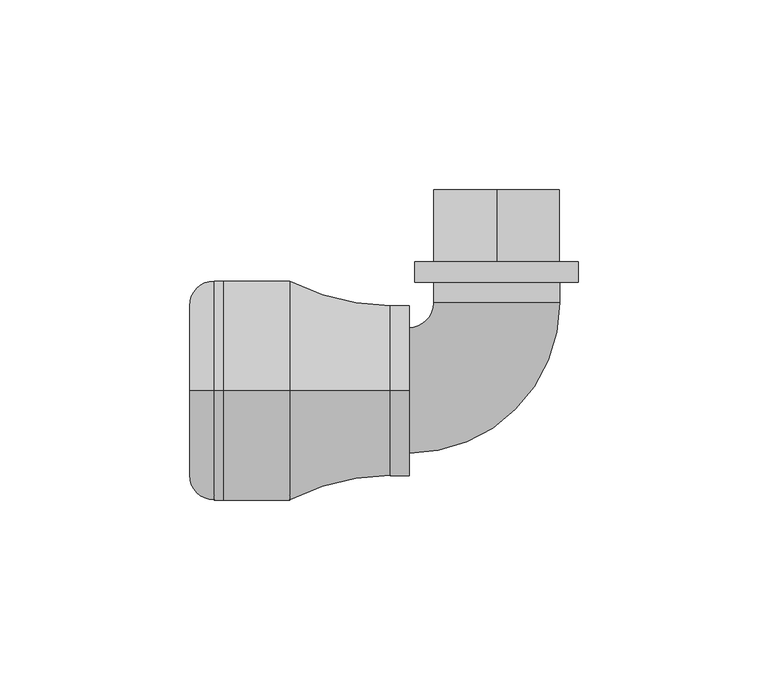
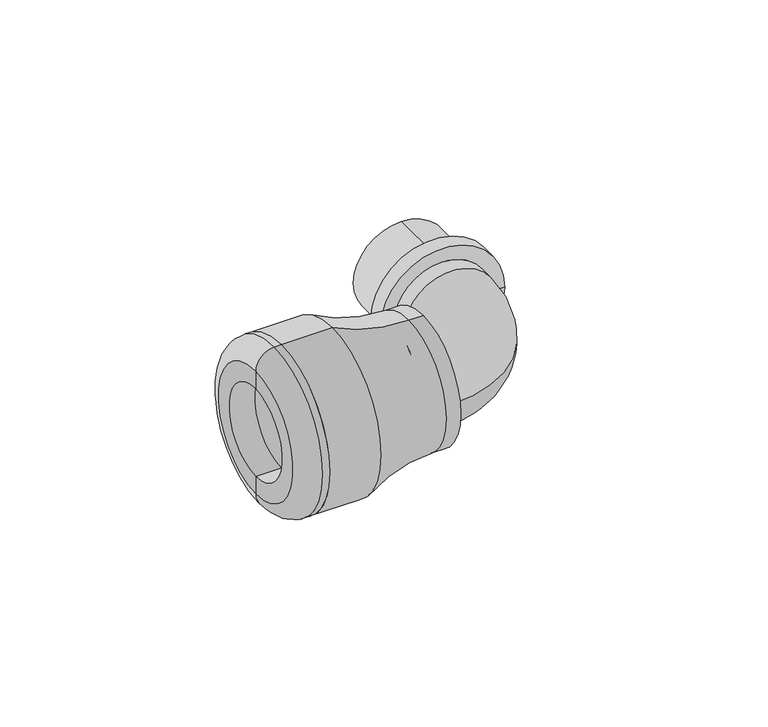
"""IFC4 building model written with IfcOpenShell, lengths in millimetres: pipe fitting geometry, Plumbing_Pipe-Fittings_Plasson_Elbow-90-with-Threaded-Male-Offtake_1085 : Plumbing_Pipe-Fittings_Plasson_Elbow-90-with-Threaded-Male-Offtake_1085."""

from ifc_helpers import new_model, si_unit, point, frame, origin, place, context, project, spatial, polyline, circle_curve, ellipse_curve, trimmed, source, transform, mapped, element, save
from ifc_brep_helpers import plane_surface, cylinder_surface, revolved_surface, advanced_brep


def pipe_fitting_c59c5df5(model_context):
    return source(origin(), model_context, "Body", "AdvancedBrep", [
        advanced_brep(
        [(0.0, 53.0, -10.8), (0.0, 53.0, 10.8), (0.0, 34.0, 10.8), (0.0, 34.0, -10.8), (0.0, 53.0, -16.6), (0.0, 53.0, 16.6), (0.0, 34.0, -16.6), (0.0, 34.0, 16.6)],
        [
            (0, 1, circle_curve(frame((0.0, 53.0, 0.0), z_axis=(0.0, 1.0, 0.0), x_axis=(0.0, 0.0, 1.0)), 10.8)),
            (1, 2),
            (2, 3, circle_curve(frame((0.0, 34.0, 0.0), z_axis=(0.0, -1.0, 0.0), x_axis=(0.0, 0.0, 1.0)), 10.8)),
            (3, 0),
            (1, 0, circle_curve(frame((0.0, 53.0, 0.0), z_axis=(0.0, 1.0, 0.0), x_axis=(0.0, 0.0, 1.0)), 10.8)),
            (3, 2, circle_curve(frame((0.0, 34.0, 0.0), z_axis=(0.0, -1.0, 0.0), x_axis=(0.0, 0.0, 1.0)), 10.8)),
            (4, 5, circle_curve(frame((0.0, 53.0, 0.0), z_axis=(0.0, 1.0, 0.0), x_axis=(0.0, 0.0, 1.0)), 16.6)),
            (5, 1),
            (0, 4),
            (5, 4, circle_curve(frame((0.0, 53.0, 0.0), z_axis=(0.0, 1.0, 0.0), x_axis=(0.0, 0.0, 1.0)), 16.6)),
            (6, 7, circle_curve(frame((0.0, 34.0, 0.0), z_axis=(0.0, 1.0, 0.0), x_axis=(0.0, 0.0, 1.0)), 16.6)),
            (7, 5),
            (4, 6),
            (7, 6, circle_curve(frame((0.0, 34.0, 0.0), z_axis=(0.0, 1.0, 0.0), x_axis=(0.0, 0.0, 1.0)), 16.6)),
            (2, 7),
            (6, 3),
        ],
        [
            revolved_surface(polyline([(0.0, 34.0, 10.8), (0.0, 53.0, 10.8)]), (0.0, 43.3333333, 0.0), (0.0, -1.0, 0.0)),
            plane_surface(frame((0.0, 53.0, 0.0), z_axis=(0.0, 1.0, 0.0), x_axis=(0.0, 0.0, 1.0))),
            cylinder_surface(frame((0.0, 43.3333333, 0.0), z_axis=(0.0, -1.0, 0.0), x_axis=(0.0, 0.0, 1.0)), 16.6),
            plane_surface(frame((0.0, 34.0, 0.0), z_axis=(0.0, -1.0, 0.0), x_axis=(0.0, 0.0, 1.0))),
        ],
        [
            (0, [[1, 2, 3, 4]]),
            (0, [[5, -4, 6, -2]]),
            (1, [[7, 8, -1, 9]]),
            (1, [[10, -9, -5, -8]]),
            (2, [[11, 12, -7, 13]]),
            (2, [[14, -13, -10, -12]]),
            (3, [[-3, 15, -11, 16]]),
            (3, [[-6, -16, -14, -15]]),
        ],
    ),
        advanced_brep(
        [(-23.1, -16.6, 0.0), (-23.1, 16.6, 0.0), (16.6, 23.1, 0.0), (-16.6, 23.1, 0.0)],
        [
            (0, 1, circle_curve(frame((-23.1, 0.0, 0.0), z_axis=(-1.0, 0.0, 0.0), x_axis=(0.0, 1.0, 0.0)), 16.6)),
            (1, 0, circle_curve(frame((-23.1, 0.0, 0.0), z_axis=(-1.0, 0.0, 0.0), x_axis=(0.0, 1.0, 0.0)), 16.6)),
            (2, 3, circle_curve(frame((0.0, 23.1, 0.0), z_axis=(0.0, 1.0, 0.0), x_axis=(-1.0, 0.0, 0.0)), 16.6)),
            (3, 2, circle_curve(frame((0.0, 23.1, 0.0), z_axis=(0.0, 1.0, 0.0), x_axis=(-1.0, 0.0, 0.0)), 16.6)),
            (3, 1, circle_curve(frame((-23.1, 23.1, 0.0), z_axis=(0.0, 0.0, -1.0), x_axis=(0.0, -1.0, 0.0)), 6.5)),
            (0, 2, circle_curve(frame((-23.1, 23.1, 0.0), z_axis=(0.0, 0.0, 1.0), x_axis=(0.0, -1.0, 0.0)), 39.7)),
        ],
        [
            plane_surface(frame((-23.1, 0.0, 0.0), z_axis=(-1.0, 0.0, 0.0), x_axis=(0.0, 0.0, 1.0))),
            plane_surface(frame((0.0, 23.1, 0.0), z_axis=(0.0, 1.0, 0.0), x_axis=(0.0, 0.0, 1.0))),
            revolved_surface(trimmed(ellipse_curve(frame((-23.1, 0.0, 0.0), z_axis=(-1.0, 0.0, 0.0), x_axis=(0.0, 1.0, 0.0)), 16.6, 16.6), [point((-23.1, -16.6, 0.0))], [point((-23.1, 16.6, 0.0))], True, "CARTESIAN"), (-23.1, 23.1, 0.0), (0.0, 0.0, 1.0)),
            revolved_surface(trimmed(ellipse_curve(frame((-23.1, 0.0, 0.0), z_axis=(-1.0, 0.0, 0.0), x_axis=(0.0, 1.0, 0.0)), 16.6, 16.6), [point((-23.1, 16.6, 0.0))], [point((-23.1, -16.6, 0.0))], True, "CARTESIAN"), (-23.1, 23.1, 0.0), (0.0, 0.0, 1.0)),
        ],
        [
            (0, [[1, 2]]),
            (1, [[3, 4]]),
            (2, [[5, -1, 6, -4]]),
            (3, [[-6, -2, -5, -3]]),
        ],
    ),
        advanced_brep(
        [(21.6, 28.55, 0.0), (-21.6, 28.55, 0.0), (-21.6, 34.0, 0.0), (21.6, 34.0, 0.0), (0.0, 34.0, 0.0), (0.0, 23.1, 0.0), (-16.6, 23.1, 0.0), (16.6, 23.1, 0.0), (-16.6, 28.55, 0.0), (16.6, 28.55, 0.0)],
        [
            (0, 1, circle_curve(frame((0.0, 28.55, 0.0), z_axis=(0.0, 1.0, 0.0), x_axis=(-1.0, 0.0, 0.0)), 21.6)),
            (1, 2),
            (2, 3, circle_curve(frame((0.0, 34.0, 0.0), z_axis=(0.0, -1.0, 0.0), x_axis=(-1.0, 0.0, 0.0)), 21.6)),
            (3, 0),
            (1, 0, circle_curve(frame((0.0, 28.55, 0.0), z_axis=(0.0, 1.0, 0.0), x_axis=(-1.0, 0.0, 0.0)), 21.6)),
            (3, 2, circle_curve(frame((0.0, 34.0, 0.0), z_axis=(0.0, -1.0, 0.0), x_axis=(-1.0, 0.0, 0.0)), 21.6)),
            (2, 4),
            (4, 3),
            (5, 6),
            (6, 7, circle_curve(frame((0.0, 23.1, 0.0), z_axis=(0.0, -1.0, 0.0), x_axis=(-1.0, 0.0, 0.0)), 16.6)),
            (7, 5),
            (7, 6, circle_curve(frame((0.0, 23.1, 0.0), z_axis=(0.0, -1.0, 0.0), x_axis=(-1.0, 0.0, 0.0)), 16.6)),
            (6, 8),
            (8, 9, circle_curve(frame((0.0, 28.55, 0.0), z_axis=(0.0, -1.0, 0.0), x_axis=(-1.0, 0.0, 0.0)), 16.6)),
            (9, 7),
            (9, 8, circle_curve(frame((0.0, 28.55, 0.0), z_axis=(0.0, -1.0, 0.0), x_axis=(-1.0, 0.0, 0.0)), 16.6)),
            (8, 1),
            (0, 9),
        ],
        [
            cylinder_surface(frame((0.0, 32.25, 0.0), z_axis=(0.0, -1.0, 0.0), x_axis=(-1.0, 0.0, 0.0)), 21.6),
            plane_surface(frame((0.0, 34.0, 0.0), z_axis=(0.0, 1.0, 0.0), x_axis=(-1.0, 0.0, 0.0))),
            plane_surface(frame((0.0, 23.1, 0.0), z_axis=(0.0, -1.0, 0.0), x_axis=(-1.0, 0.0, 0.0))),
            cylinder_surface(frame((0.0, 32.25, 0.0), z_axis=(0.0, -1.0, 0.0), x_axis=(-1.0, 0.0, 0.0)), 16.6),
            plane_surface(frame((0.0, 28.55, 0.0), z_axis=(0.0, -1.0, 0.0), x_axis=(-1.0, 0.0, 0.0))),
        ],
        [
            (0, [[1, 2, 3, 4]]),
            (0, [[5, -4, 6, -2]]),
            (1, [[-3, 7, 8]]),
            (1, [[-6, -8, -7]]),
            (2, [[9, 10, 11]]),
            (2, [[-11, 12, -9]]),
            (3, [[-10, 13, 14, 15]]),
            (3, [[-12, -15, 16, -13]]),
            (4, [[-14, 17, -1, 18]]),
            (4, [[-16, -18, -5, -17]]),
        ],
    ),
        advanced_brep(
        [(-72.1666667, 0.0, -29.0), (-72.1666667, 0.0, 29.0), (-72.1666667, 0.0, 16.0), (-72.1666667, 0.0, -16.0), (-74.5, 0.0, -29.0), (-74.5, 0.0, 29.0), (-81.0, 0.0, -22.5), (-81.0, 0.0, 22.5), (-81.0, 0.0, -16.0), (-81.0, 0.0, 16.0)],
        [
            (0, 1, circle_curve(frame((-72.1666667, 0.0, 0.0), z_axis=(1.0, 0.0, 0.0), x_axis=(0.0, 0.0, 1.0)), 29.0)),
            (1, 2),
            (2, 3, circle_curve(frame((-72.1666667, 0.0, 0.0), z_axis=(-1.0, 0.0, 0.0), x_axis=(0.0, 0.0, 1.0)), 16.0)),
            (3, 0),
            (1, 0, circle_curve(frame((-72.1666667, 0.0, 0.0), z_axis=(1.0, 0.0, 0.0), x_axis=(0.0, 0.0, 1.0)), 29.0)),
            (3, 2, circle_curve(frame((-72.1666667, 0.0, 0.0), z_axis=(-1.0, 0.0, 0.0), x_axis=(0.0, 0.0, 1.0)), 16.0)),
            (4, 5, circle_curve(frame((-74.5, 0.0, 0.0), z_axis=(1.0, 0.0, 0.0), x_axis=(0.0, 0.0, 1.0)), 29.0)),
            (5, 1),
            (0, 4),
            (5, 4, circle_curve(frame((-74.5, 0.0, 0.0), z_axis=(1.0, 0.0, 0.0), x_axis=(0.0, 0.0, 1.0)), 29.0)),
            (6, 7, circle_curve(frame((-81.0, 0.0, 0.0), z_axis=(1.0, 0.0, 0.0), x_axis=(0.0, 0.0, 1.0)), 22.5)),
            (7, 5, circle_curve(frame((-74.5, 0.0, 22.5), z_axis=(0.0, 1.0, 0.0), x_axis=(1.0, 0.0, 0.0)), 6.5)),
            (4, 6, circle_curve(frame((-74.5, 0.0, -22.5), z_axis=(0.0, 1.0, 0.0), x_axis=(1.0, 0.0, 0.0)), 6.5)),
            (7, 6, circle_curve(frame((-81.0, 0.0, 0.0), z_axis=(1.0, 0.0, 0.0), x_axis=(0.0, 0.0, 1.0)), 22.5)),
            (8, 9, circle_curve(frame((-81.0, 0.0, 0.0), z_axis=(1.0, 0.0, 0.0), x_axis=(0.0, 0.0, 1.0)), 16.0)),
            (9, 7),
            (6, 8),
            (9, 8, circle_curve(frame((-81.0, 0.0, 0.0), z_axis=(1.0, 0.0, 0.0), x_axis=(0.0, 0.0, 1.0)), 16.0)),
            (2, 9),
            (8, 3),
        ],
        [
            plane_surface(frame((-72.1666667, 0.0, 0.0), z_axis=(1.0, 0.0, 0.0), x_axis=(0.0, 0.0, 1.0))),
            cylinder_surface(frame((-86.0, 0.0, 0.0), z_axis=(-1.0, 0.0, 0.0), x_axis=(0.0, 0.0, 1.0)), 29.0),
            revolved_surface(trimmed(ellipse_curve(frame((-74.5, 0.0, 22.5), z_axis=(0.0, -1.0, 0.0), x_axis=(1.0, 0.0, 0.0)), 6.5, 6.5), [point((-74.5, 0.0, 29.0))], [point((-81.0, 0.0, 22.5))], True, "CARTESIAN"), (-86.0, 0.0, 0.0), (-1.0, 0.0, 0.0)),
            plane_surface(frame((-81.0, 0.0, 0.0), z_axis=(-1.0, 0.0, 0.0), x_axis=(0.0, 0.0, 1.0))),
            revolved_surface(polyline([(-81.0, 0.0, 16.0), (-72.1666667, 0.0, 16.0)]), (-86.0, 0.0, 0.0), (-1.0, 0.0, 0.0)),
        ],
        [
            (0, [[1, 2, 3, 4]]),
            (0, [[5, -4, 6, -2]]),
            (1, [[7, 8, -1, 9]]),
            (1, [[10, -9, -5, -8]]),
            (2, [[11, 12, -7, 13]]),
            (2, [[14, -13, -10, -12]]),
            (3, [[15, 16, -11, 17]]),
            (3, [[18, -17, -14, -16]]),
            (4, [[-3, 19, -15, 20]]),
            (4, [[-6, -20, -18, -19]]),
        ],
    ),
        advanced_brep(
        [(-72.1666667, 0.0, -16.0), (-72.1666667, 0.0, 16.0), (-72.1666667, 0.0, 29.0), (-72.1666667, 0.0, -29.0), (-28.0, 0.0, -16.0), (-28.0, 0.0, 16.0), (-28.0, 0.0, 0.0), (-54.5, 0.0, 29.0), (-54.5, 0.0, -29.0), (-23.1, 0.0, -22.5), (-23.1, 0.0, 22.5), (-23.1, 0.0, 0.0), (-28.0, 0.0, -22.5), (-28.0, 0.0, 22.5)],
        [
            (0, 1, circle_curve(frame((-72.1666667, 0.0, 0.0), z_axis=(1.0, 0.0, 0.0), x_axis=(0.0, 0.0, 1.0)), 16.0)),
            (1, 2),
            (2, 3, circle_curve(frame((-72.1666667, 0.0, 0.0), z_axis=(-1.0, 0.0, 0.0), x_axis=(0.0, 0.0, 1.0)), 29.0)),
            (3, 0),
            (1, 0, circle_curve(frame((-72.1666667, 0.0, 0.0), z_axis=(1.0, 0.0, 0.0), x_axis=(0.0, 0.0, 1.0)), 16.0)),
            (3, 2, circle_curve(frame((-72.1666667, 0.0, 0.0), z_axis=(-1.0, 0.0, 0.0), x_axis=(0.0, 0.0, 1.0)), 29.0)),
            (4, 5, circle_curve(frame((-28.0, 0.0, 0.0), z_axis=(1.0, 0.0, 0.0), x_axis=(0.0, 0.0, 1.0)), 16.0)),
            (5, 1),
            (0, 4),
            (5, 4, circle_curve(frame((-28.0, 0.0, 0.0), z_axis=(1.0, 0.0, 0.0), x_axis=(0.0, 0.0, 1.0)), 16.0)),
            (6, 5),
            (4, 6),
            (2, 7),
            (7, 8, circle_curve(frame((-54.5, 0.0, 0.0), z_axis=(-1.0, 0.0, 0.0), x_axis=(0.0, 0.0, 1.0)), 29.0)),
            (8, 3),
            (8, 7, circle_curve(frame((-54.5, 0.0, 0.0), z_axis=(-1.0, 0.0, 0.0), x_axis=(0.0, 0.0, 1.0)), 29.0)),
            (9, 10, circle_curve(frame((-23.1, 0.0, 0.0), z_axis=(1.0, 0.0, 0.0), x_axis=(0.0, 0.0, 1.0)), 22.5)),
            (10, 11),
            (11, 9),
            (10, 9, circle_curve(frame((-23.1, 0.0, 0.0), z_axis=(1.0, 0.0, 0.0), x_axis=(0.0, 0.0, 1.0)), 22.5)),
            (12, 13, circle_curve(frame((-28.0, 0.0, 0.0), z_axis=(1.0, 0.0, 0.0), x_axis=(0.0, 0.0, 1.0)), 22.5)),
            (13, 10),
            (9, 12),
            (13, 12, circle_curve(frame((-28.0, 0.0, 0.0), z_axis=(1.0, 0.0, 0.0), x_axis=(0.0, 0.0, 1.0)), 22.5)),
            (7, 13, circle_curve(frame((-28.0, 0.0, 79.7692308), z_axis=(0.0, -1.0, 0.0), x_axis=(1.0, 0.0, 0.0)), 57.2692308)),
            (12, 8, circle_curve(frame((-28.0, 0.0, -79.7692308), z_axis=(0.0, -1.0, 0.0), x_axis=(1.0, 0.0, 0.0)), 57.2692308)),
        ],
        [
            plane_surface(frame((-72.1666667, 0.0, 0.0), z_axis=(-1.0, 0.0, 0.0), x_axis=(0.0, 0.0, 1.0))),
            revolved_surface(polyline([(-72.1666667, 0.0, 16.0), (-28.0, 0.0, 16.0)]), (-72.1666667, 0.0, 0.0), (-1.0, 0.0, 0.0)),
            plane_surface(frame((-28.0, 0.0, 0.0), z_axis=(-1.0, 0.0, 0.0), x_axis=(0.0, 0.0, 1.0))),
            cylinder_surface(frame((-72.1666667, 0.0, 0.0), z_axis=(-1.0, 0.0, 0.0), x_axis=(0.0, 0.0, 1.0)), 29.0),
            plane_surface(frame((-23.1, 0.0, 0.0), z_axis=(1.0, 0.0, 0.0), x_axis=(0.0, 0.0, 1.0))),
            cylinder_surface(frame((-72.1666667, 0.0, 0.0), z_axis=(-1.0, 0.0, 0.0), x_axis=(0.0, 0.0, 1.0)), 22.5),
            revolved_surface(trimmed(ellipse_curve(frame((-28.0, 0.0, 79.7692308), z_axis=(0.0, 1.0, 0.0), x_axis=(1.0, 0.0, 0.0)), 57.2692308, 57.2692308), [point((-28.0, 0.0, 22.5))], [point((-54.5, 0.0, 29.0))], True, "CARTESIAN"), (-72.1666667, 0.0, 0.0), (-1.0, 0.0, 0.0)),
        ],
        [
            (0, [[1, 2, 3, 4]]),
            (0, [[5, -4, 6, -2]]),
            (1, [[7, 8, -1, 9]]),
            (1, [[10, -9, -5, -8]]),
            (2, [[11, -7, 12]]),
            (2, [[-12, -10, -11]]),
            (3, [[-3, 13, 14, 15]]),
            (3, [[-6, -15, 16, -13]]),
            (4, [[17, 18, 19]]),
            (4, [[20, -19, -18]]),
            (5, [[21, 22, -17, 23]]),
            (5, [[24, -23, -20, -22]]),
            (6, [[-14, 25, -21, 26]]),
            (6, [[-16, -26, -24, -25]]),
        ],
    ),
    ])


if __name__ == "__main__":
    model = new_model("IFC4")
    model_context = context("Model", 3, world=origin())
    ifc_project = project(units=[si_unit("LENGTHUNIT", "METRE", prefix="MILLI")], contexts=[model_context])
    site = spatial("IfcSite", under=ifc_project)
    building = spatial("IfcBuilding", under=site)
    placement = place(None, origin())
    pipe_fitting_shape = pipe_fitting_c59c5df5(model_context)
    element("IfcPipeFitting", 1, ObjectType="Plumbing_Pipe-Fittings_Plasson_Elbow-90-with-Threaded-Male-Offtake_1085 : Plumbing_Pipe-Fittings_Plasson_Elbow-90-with-Threaded-Male-Offtake_1085", at=placement, inside=building, context=model_context, shape_type="MappedRepresentation", body=[
        mapped(pipe_fitting_shape, transform((0.0, 0.0, 0.0), x_axis=(1.0, 0.0, 0.0), y_axis=(0.0, 1.0, 0.0), z_axis=(0.0, 0.0, 1.0))),
    ])
    save(model, "model.ifc")
